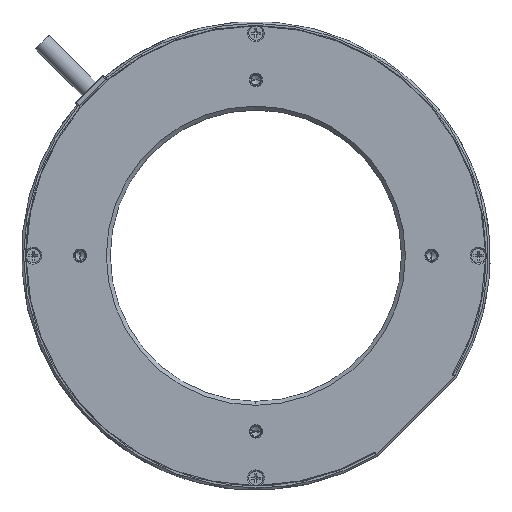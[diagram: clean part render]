
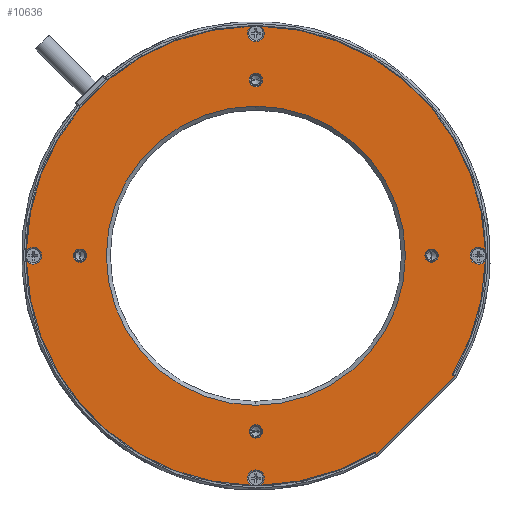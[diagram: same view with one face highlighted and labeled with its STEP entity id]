
A CAD part, top view. The second image highlights one B-rep face of the part: STEP entity #10636.
In plain terms, the highlighted planar face has unit normal (0, 0, 1).
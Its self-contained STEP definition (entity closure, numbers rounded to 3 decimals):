
#3237=CARTESIAN_POINT('',(0.,0.,2.));
#3238=DIRECTION('',(0.,0.,-1.));
#3239=DIRECTION('',(0.,1.,0.));
#3240=AXIS2_PLACEMENT_3D('',#3237,#3238,#3239);
#3242=CARTESIAN_POINT('',(0.,0.,2.));
#3243=DIRECTION('',(0.,0.,-1.));
#3244=DIRECTION('',(0.,-1.,0.));
#3245=AXIS2_PLACEMENT_3D('',#3242,#3243,#3244);
#3247=CARTESIAN_POINT('',(-45.,0.,2.));
#3248=DIRECTION('',(0.,0.,-1.));
#3249=DIRECTION('',(0.,-1.,0.));
#3250=AXIS2_PLACEMENT_3D('',#3247,#3248,#3249);
#3252=CARTESIAN_POINT('',(-45.,0.,2.));
#3253=DIRECTION('',(0.,0.,-1.));
#3254=DIRECTION('',(0.,1.,0.));
#3255=AXIS2_PLACEMENT_3D('',#3252,#3253,#3254);
#3257=CARTESIAN_POINT('',(0.,-45.,2.));
#3258=DIRECTION('',(0.,0.,-1.));
#3259=DIRECTION('',(1.,0.,0.));
#3260=AXIS2_PLACEMENT_3D('',#3257,#3258,#3259);
#3262=CARTESIAN_POINT('',(0.,-45.,2.));
#3263=DIRECTION('',(0.,0.,-1.));
#3264=DIRECTION('',(-1.,0.,0.));
#3265=AXIS2_PLACEMENT_3D('',#3262,#3263,#3264);
#3267=CARTESIAN_POINT('',(45.,0.,2.));
#3268=DIRECTION('',(0.,0.,-1.));
#3269=DIRECTION('',(0.,1.,0.));
#3270=AXIS2_PLACEMENT_3D('',#3267,#3268,#3269);
#3272=CARTESIAN_POINT('',(45.,0.,2.));
#3273=DIRECTION('',(0.,0.,-1.));
#3274=DIRECTION('',(0.,-1.,0.));
#3275=AXIS2_PLACEMENT_3D('',#3272,#3273,#3274);
#3277=CARTESIAN_POINT('',(0.,45.,2.));
#3278=DIRECTION('',(0.,0.,-1.));
#3279=DIRECTION('',(-1.,0.,0.));
#3280=AXIS2_PLACEMENT_3D('',#3277,#3278,#3279);
#3282=CARTESIAN_POINT('',(0.,45.,2.));
#3283=DIRECTION('',(0.,0.,-1.));
#3284=DIRECTION('',(1.,0.,0.));
#3285=AXIS2_PLACEMENT_3D('',#3282,#3283,#3284);
#3287=CARTESIAN_POINT('',(0.,0.,2.));
#3288=DIRECTION('',(0.,0.,1.));
#3289=DIRECTION('',(0.859,-0.513,0.));
#3290=AXIS2_PLACEMENT_3D('',#3287,#3288,#3289);
#3292=CARTESIAN_POINT('',(50.912,-30.406,2.));
#3293=DIRECTION('',(0.,0.,-1.));
#3294=DIRECTION('',(-0.707,-0.707,0.));
#3295=AXIS2_PLACEMENT_3D('',#3292,#3293,#3294);
#3297=DIRECTION('',(-0.707,0.707,0.));
#3298=VECTOR('',#3297,0.344);
#3299=CARTESIAN_POINT('',(50.801,-31.002,2.));
#3300=LINE('',#3299,#3298);
#3301=DIRECTION('',(0.707,0.707,0.));
#3302=VECTOR('',#3301,28.);
#3303=CARTESIAN_POINT('',(31.002,-50.801,2.));
#3304=LINE('',#3303,#3302);
#3305=DIRECTION('',(0.707,-0.707,0.));
#3306=VECTOR('',#3305,0.344);
#3307=CARTESIAN_POINT('',(30.759,-50.558,2.));
#3308=LINE('',#3307,#3306);
#3309=CARTESIAN_POINT('',(30.406,-50.912,2.));
#3310=DIRECTION('',(0.,0.,-1.));
#3311=DIRECTION('',(-0.513,0.859,0.));
#3312=AXIS2_PLACEMENT_3D('',#3309,#3310,#3311);
#3314=CARTESIAN_POINT('',(0.,0.,2.));
#3315=DIRECTION('',(0.,0.,1.));
#3316=DIRECTION('',(0.02,-1.,0.));
#3317=AXIS2_PLACEMENT_3D('',#3314,#3315,#3316);
#3319=CARTESIAN_POINT('',(0.,0.,2.));
#3320=DIRECTION('',(0.,0.,1.));
#3321=DIRECTION('',(-1.,-0.02,0.));
#3322=AXIS2_PLACEMENT_3D('',#3319,#3320,#3321);
#3324=CARTESIAN_POINT('',(0.,0.,2.));
#3325=DIRECTION('',(0.,0.,1.));
#3326=DIRECTION('',(-0.02,1.,0.));
#3327=AXIS2_PLACEMENT_3D('',#3324,#3325,#3326);
#3329=CARTESIAN_POINT('',(0.,0.,2.));
#3330=DIRECTION('',(0.,0.,1.));
#3331=DIRECTION('',(1.,0.02,0.));
#3332=AXIS2_PLACEMENT_3D('',#3329,#3330,#3331);
#3824=CARTESIAN_POINT('',(57.,0.,2.));
#3825=DIRECTION('',(0.,0.,-1.));
#3826=DIRECTION('',(0.832,-0.555,0.));
#3827=AXIS2_PLACEMENT_3D('',#3824,#3825,#3826);
#4185=CARTESIAN_POINT('',(0.,-57.,2.));
#4186=DIRECTION('',(0.,0.,-1.));
#4187=DIRECTION('',(-0.555,-0.832,0.));
#4188=AXIS2_PLACEMENT_3D('',#4185,#4186,#4187);
#4528=CARTESIAN_POINT('',(-57.,0.,2.));
#4529=DIRECTION('',(0.,0.,-1.));
#4530=DIRECTION('',(-0.832,0.555,0.));
#4531=AXIS2_PLACEMENT_3D('',#4528,#4529,#4530);
#4881=CARTESIAN_POINT('',(0.,57.,2.));
#4882=DIRECTION('',(0.,0.,-1.));
#4883=DIRECTION('',(0.555,0.832,0.));
#4884=AXIS2_PLACEMENT_3D('',#4881,#4882,#4883);
#5519=CARTESIAN_POINT('',(50.482,-30.15,2.));
#5520=CARTESIAN_POINT('',(58.788,-1.194,2.));
#5521=VERTEX_POINT('',#5519);
#5522=VERTEX_POINT('',#5520);
#5523=CARTESIAN_POINT('',(50.558,-30.759,2.));
#5524=VERTEX_POINT('',#5523);
#5525=CARTESIAN_POINT('',(50.801,-31.002,2.));
#5526=VERTEX_POINT('',#5525);
#5527=CARTESIAN_POINT('',(31.002,-50.801,2.));
#5528=VERTEX_POINT('',#5527);
#5529=CARTESIAN_POINT('',(30.759,-50.558,2.));
#5530=VERTEX_POINT('',#5529);
#5531=CARTESIAN_POINT('',(30.149,-50.482,2.));
#5532=VERTEX_POINT('',#5531);
#5533=CARTESIAN_POINT('',(1.194,-58.788,2.));
#5534=VERTEX_POINT('',#5533);
#5535=CARTESIAN_POINT('',(-58.788,-1.194,2.));
#5536=CARTESIAN_POINT('',(-1.194,-58.788,2.));
#5537=VERTEX_POINT('',#5535);
#5538=VERTEX_POINT('',#5536);
#5539=CARTESIAN_POINT('',(-1.194,58.788,2.));
#5540=CARTESIAN_POINT('',(-58.788,1.194,2.));
#5541=VERTEX_POINT('',#5539);
#5542=VERTEX_POINT('',#5540);
#5543=CARTESIAN_POINT('',(58.788,1.194,2.));
#5544=CARTESIAN_POINT('',(1.194,58.788,2.));
#5545=VERTEX_POINT('',#5543);
#5546=VERTEX_POINT('',#5544);
#5547=CARTESIAN_POINT('',(1.7,45.,2.));
#5548=CARTESIAN_POINT('',(-1.7,45.,2.));
#5549=VERTEX_POINT('',#5547);
#5550=VERTEX_POINT('',#5548);
#5551=CARTESIAN_POINT('',(45.,-1.7,2.));
#5552=CARTESIAN_POINT('',(45.,1.7,2.));
#5553=VERTEX_POINT('',#5551);
#5554=VERTEX_POINT('',#5552);
#5555=CARTESIAN_POINT('',(-1.7,-45.,2.));
#5556=CARTESIAN_POINT('',(1.7,-45.,2.));
#5557=VERTEX_POINT('',#5555);
#5558=VERTEX_POINT('',#5556);
#5559=CARTESIAN_POINT('',(-45.,1.7,2.));
#5560=CARTESIAN_POINT('',(-45.,-1.7,2.));
#5561=VERTEX_POINT('',#5559);
#5562=VERTEX_POINT('',#5560);
#5563=CARTESIAN_POINT('',(0.,-38.3,2.));
#5564=CARTESIAN_POINT('',(0.,38.3,2.));
#5565=VERTEX_POINT('',#5563);
#5566=VERTEX_POINT('',#5564);
#10579=CARTESIAN_POINT('',(0.,0.,2.));
#10580=DIRECTION('',(0.,0.,-1.));
#10581=DIRECTION('',(0.,-1.,0.));
#10582=AXIS2_PLACEMENT_3D('',#10579,#10580,#10581);
#10583=PLANE('',#10582);
#10585=ORIENTED_EDGE('',*,*,#10584,.F.);
#10586=ORIENTED_EDGE('',*,*,#10337,.F.);
#10588=ORIENTED_EDGE('',*,*,#10587,.F.);
#10589=ORIENTED_EDGE('',*,*,#10438,.F.);
#10591=ORIENTED_EDGE('',*,*,#10590,.F.);
#10592=ORIENTED_EDGE('',*,*,#10472,.F.);
#10593=ORIENTED_EDGE('',*,*,#10574,.F.);
#10594=ORIENTED_EDGE('',*,*,#10369,.F.);
#10596=ORIENTED_EDGE('',*,*,#10595,.F.);
#10597=ORIENTED_EDGE('',*,*,#10361,.F.);
#10599=ORIENTED_EDGE('',*,*,#10598,.F.);
#10600=ORIENTED_EDGE('',*,*,#10353,.F.);
#10602=ORIENTED_EDGE('',*,*,#10601,.F.);
#10603=ORIENTED_EDGE('',*,*,#10345,.F.);
#10604=EDGE_LOOP('',(#10585,#10586,#10588,#10589,#10591,#10592,#10593,#10594,
#10596,#10597,#10599,#10600,#10602,#10603));
#10605=FACE_OUTER_BOUND('',#10604,.F.);
#10607=ORIENTED_EDGE('',*,*,#10606,.F.);
#10609=ORIENTED_EDGE('',*,*,#10608,.F.);
#10610=EDGE_LOOP('',(#10607,#10609));
#10611=FACE_BOUND('',#10610,.F.);
#10613=ORIENTED_EDGE('',*,*,#10612,.F.);
#10615=ORIENTED_EDGE('',*,*,#10614,.F.);
#10616=EDGE_LOOP('',(#10613,#10615));
#10617=FACE_BOUND('',#10616,.F.);
#10619=ORIENTED_EDGE('',*,*,#10618,.F.);
#10621=ORIENTED_EDGE('',*,*,#10620,.F.);
#10622=EDGE_LOOP('',(#10619,#10621));
#10623=FACE_BOUND('',#10622,.F.);
#10625=ORIENTED_EDGE('',*,*,#10624,.F.);
#10627=ORIENTED_EDGE('',*,*,#10626,.F.);
#10628=EDGE_LOOP('',(#10625,#10627));
#10629=FACE_BOUND('',#10628,.F.);
#10631=ORIENTED_EDGE('',*,*,#10630,.F.);
#10633=ORIENTED_EDGE('',*,*,#10632,.F.);
#10634=EDGE_LOOP('',(#10631,#10633));
#10635=FACE_BOUND('',#10634,.F.);
#10636=ADVANCED_FACE('',(#10605,#10611,#10617,#10623,#10629,#10635),#10583,.F.);
#3241=CIRCLE('',#3240,38.3);
#3246=CIRCLE('',#3245,38.3);
#3251=CIRCLE('',#3250,1.7);
#3256=CIRCLE('',#3255,1.7);
#3261=CIRCLE('',#3260,1.7);
#3266=CIRCLE('',#3265,1.7);
#3271=CIRCLE('',#3270,1.7);
#3276=CIRCLE('',#3275,1.7);
#3281=CIRCLE('',#3280,1.7);
#3286=CIRCLE('',#3285,1.7);
#3291=CIRCLE('',#3290,58.8);
#3296=CIRCLE('',#3295,0.5);
#3313=CIRCLE('',#3312,0.5);
#3318=CIRCLE('',#3317,58.8);
#3323=CIRCLE('',#3322,58.8);
#3328=CIRCLE('',#3327,58.8);
#3333=CIRCLE('',#3332,58.8);
#3828=CIRCLE('',#3827,2.15);
#4189=CIRCLE('',#4188,2.15);
#4532=CIRCLE('',#4531,2.15);
#4885=CIRCLE('',#4884,2.15);
#10337=EDGE_CURVE('',#5521,#5522,#3291,.T.);
#10345=EDGE_CURVE('',#5545,#5546,#3333,.T.);
#10353=EDGE_CURVE('',#5541,#5542,#3328,.T.);
#10361=EDGE_CURVE('',#5537,#5538,#3323,.T.);
#10369=EDGE_CURVE('',#5534,#5532,#3318,.T.);
#10438=EDGE_CURVE('',#5526,#5524,#3300,.T.);
#10472=EDGE_CURVE('',#5530,#5528,#3308,.T.);
#10574=EDGE_CURVE('',#5532,#5530,#3313,.T.);
#10584=EDGE_CURVE('',#5522,#5545,#3828,.T.);
#10587=EDGE_CURVE('',#5524,#5521,#3296,.T.);
#10590=EDGE_CURVE('',#5528,#5526,#3304,.T.);
#10595=EDGE_CURVE('',#5538,#5534,#4189,.T.);
#10598=EDGE_CURVE('',#5542,#5537,#4532,.T.);
#10601=EDGE_CURVE('',#5546,#5541,#4885,.T.);
#10606=EDGE_CURVE('',#5562,#5561,#3251,.T.);
#10608=EDGE_CURVE('',#5561,#5562,#3256,.T.);
#10612=EDGE_CURVE('',#5558,#5557,#3261,.T.);
#10614=EDGE_CURVE('',#5557,#5558,#3266,.T.);
#10618=EDGE_CURVE('',#5554,#5553,#3271,.T.);
#10620=EDGE_CURVE('',#5553,#5554,#3276,.T.);
#10624=EDGE_CURVE('',#5550,#5549,#3281,.T.);
#10626=EDGE_CURVE('',#5549,#5550,#3286,.T.);
#10630=EDGE_CURVE('',#5566,#5565,#3241,.T.);
#10632=EDGE_CURVE('',#5565,#5566,#3246,.T.);
